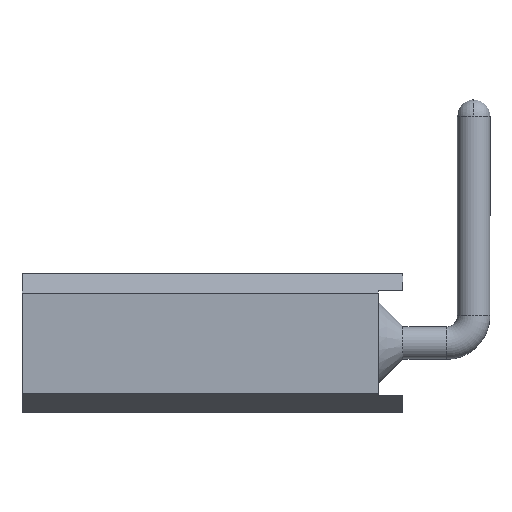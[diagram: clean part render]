
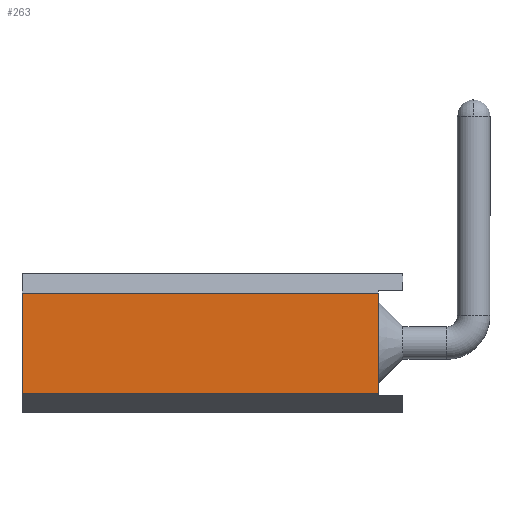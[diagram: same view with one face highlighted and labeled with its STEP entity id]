
A CAD part, left-side view. The second image highlights one B-rep face of the part: STEP entity #263.
In plain terms, the highlighted planar face has unit normal (-1, 0, 0).
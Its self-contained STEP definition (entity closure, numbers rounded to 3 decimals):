
#5 = ORIENTED_EDGE ( 'NONE', *, *, #705, .T. ) ;
#34 = CARTESIAN_POINT ( 'NONE',  ( -1.299, 3.5, -1.229 ) ) ;
#70 = DIRECTION ( 'NONE',  ( 0., 0., 1. ) ) ;
#159 = LINE ( 'NONE', #471, #239 ) ;
#214 = EDGE_CURVE ( 'NONE', #599, #844, #508, .T. ) ;
#216 = DIRECTION ( 'NONE',  ( 0., 1., 0. ) ) ;
#224 = VERTEX_POINT ( 'NONE', #439 ) ;
#239 = VECTOR ( 'NONE', #216, 1000. ) ;
#262 = LINE ( 'NONE', #34, #530 ) ;
#263 = ADVANCED_FACE ( 'NONE', ( #944 ), #785, .F. ) ;
#274 = DIRECTION ( 'NONE',  ( 0., 0., 1. ) ) ;
#286 = VECTOR ( 'NONE', #428, 1000. ) ;
#290 = CARTESIAN_POINT ( 'NONE',  ( -1.299, -3.5, 0.961 ) ) ;
#365 = CARTESIAN_POINT ( 'NONE',  ( -1.299, -3.05, 1.011 ) ) ;
#386 = EDGE_LOOP ( 'NONE', ( #461, #5, #968, #702 ) ) ;
#428 = DIRECTION ( 'NONE',  ( 0., 1., 0. ) ) ;
#438 = VERTEX_POINT ( 'NONE', #814 ) ;
#439 = CARTESIAN_POINT ( 'NONE',  ( -1.299, 3.5, -0.879 ) ) ;
#461 = ORIENTED_EDGE ( 'NONE', *, *, #806, .F. ) ;
#471 = CARTESIAN_POINT ( 'NONE',  ( -1.299, -3.5, -0.879 ) ) ;
#508 = LINE ( 'NONE', #290, #286 ) ;
#530 = VECTOR ( 'NONE', #904, 1000. ) ;
#599 = VERTEX_POINT ( 'NONE', #905 ) ;
#645 = AXIS2_PLACEMENT_3D ( 'NONE', #774, #861, #70 ) ;
#668 = LINE ( 'NONE', #365, #1003 ) ;
#702 = ORIENTED_EDGE ( 'NONE', *, *, #976, .F. ) ;
#705 = EDGE_CURVE ( 'NONE', #438, #599, #668, .T. ) ;
#774 = CARTESIAN_POINT ( 'NONE',  ( -1.299, 3.5, -1.229 ) ) ;
#785 = PLANE ( 'NONE',  #645 ) ;
#804 = CARTESIAN_POINT ( 'NONE',  ( -1.299, 3.5, 0.961 ) ) ;
#806 = EDGE_CURVE ( 'NONE', #438, #224, #159, .T. ) ;
#814 = CARTESIAN_POINT ( 'NONE',  ( -1.299, -3.05, -0.879 ) ) ;
#844 = VERTEX_POINT ( 'NONE', #804 ) ;
#861 = DIRECTION ( 'NONE',  ( 1., 0., 0. ) ) ;
#904 = DIRECTION ( 'NONE',  ( 0., 0., 1. ) ) ;
#905 = CARTESIAN_POINT ( 'NONE',  ( -1.299, -3.05, 0.961 ) ) ;
#944 = FACE_OUTER_BOUND ( 'NONE', #386, .T. ) ;
#968 = ORIENTED_EDGE ( 'NONE', *, *, #214, .T. ) ;
#976 = EDGE_CURVE ( 'NONE', #224, #844, #262, .T. ) ;
#1003 = VECTOR ( 'NONE', #274, 1000. ) ;
